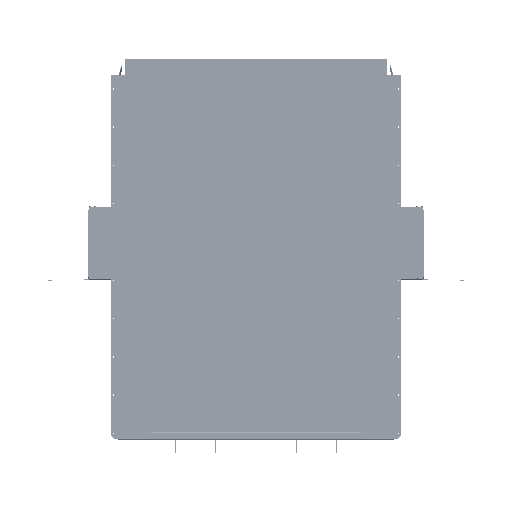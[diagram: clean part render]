
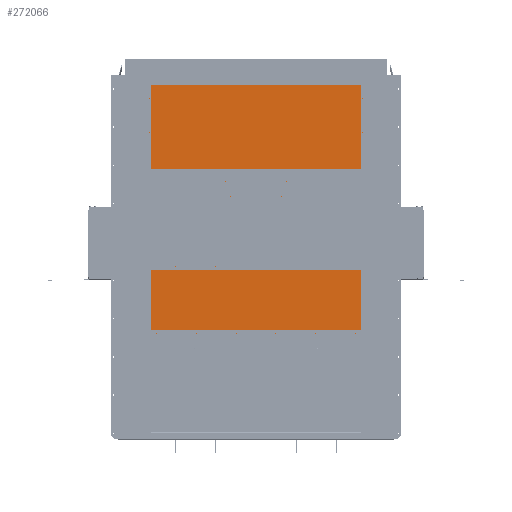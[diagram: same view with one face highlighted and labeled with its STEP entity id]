
A CAD part, front view. The second image highlights one B-rep face of the part: STEP entity #272066.
In plain terms, the highlighted planar face has unit normal (0, -1, 0) as drawn and (0, 0, -1) by its records, which use the part's own axes.
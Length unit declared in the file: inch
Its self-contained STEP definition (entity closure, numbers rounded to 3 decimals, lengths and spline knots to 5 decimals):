
#12979 = VERTEX_POINT ( 'NONE', #335409 ) ;
#19307 = VERTEX_POINT ( 'NONE', #45756 ) ;
#45756 = CARTESIAN_POINT ( 'NONE',  ( 55.7793, 26.23211, 0. ) ) ;
#49669 = VECTOR ( 'NONE', #237613, 39.37008 ) ;
#71188 = CARTESIAN_POINT ( 'NONE',  ( 0., 0., 0. ) ) ;
#99718 = CARTESIAN_POINT ( 'NONE',  ( 55.7793, 93.02785, 0. ) ) ;
#105678 = VECTOR ( 'NONE', #681357, 39.37008 ) ;
#134526 = CARTESIAN_POINT ( 'NONE',  ( 55.7793, 93.02785, 0. ) ) ;
#138619 = FACE_OUTER_BOUND ( 'NONE', #616387, .T. ) ;
#174847 = ORIENTED_EDGE ( 'NONE', *, *, #539818, .F. ) ;
#237613 = DIRECTION ( 'NONE',  ( -1., 0., 0. ) ) ;
#241496 = CARTESIAN_POINT ( 'NONE',  ( -0.76089, 93.02785, 0. ) ) ;
#272066 = ADVANCED_FACE ( 'NONE', ( #138619 ), #444892, .F. ) ;
#298814 = VERTEX_POINT ( 'NONE', #604136 ) ;
#325742 = DIRECTION ( 'NONE',  ( 0., 0., 1. ) ) ;
#335409 = CARTESIAN_POINT ( 'NONE',  ( -0.76089, 26.23211, 0. ) ) ;
#396137 = ORIENTED_EDGE ( 'NONE', *, *, #633321, .F. ) ;
#440109 = VERTEX_POINT ( 'NONE', #134526 ) ;
#444892 = PLANE ( 'NONE',  #452443 ) ;
#452443 = AXIS2_PLACEMENT_3D ( 'NONE', #71188, #325742, #687642 ) ;
#454986 = ORIENTED_EDGE ( 'NONE', *, *, #619213, .F. ) ;
#482417 = VECTOR ( 'NONE', #533259, 39.37008 ) ;
#495803 = CARTESIAN_POINT ( 'NONE',  ( -0.76089, 93.02785, 0. ) ) ;
#506088 = LINE ( 'NONE', #629394, #105678 ) ;
#533259 = DIRECTION ( 'NONE',  ( 0., 1., 0. ) ) ;
#539818 = EDGE_CURVE ( 'NONE', #440109, #298814, #782401, .T. ) ;
#559301 = ORIENTED_EDGE ( 'NONE', *, *, #581520, .F. ) ;
#572999 = VECTOR ( 'NONE', #730639, 39.37008 ) ;
#581520 = EDGE_CURVE ( 'NONE', #19307, #440109, #644870, .T. ) ;
#604136 = CARTESIAN_POINT ( 'NONE',  ( -0.76089, 93.02785, 0. ) ) ;
#616387 = EDGE_LOOP ( 'NONE', ( #454986, #174847, #559301, #396137 ) ) ;
#619213 = EDGE_CURVE ( 'NONE', #298814, #12979, #667018, .T. ) ;
#629394 = CARTESIAN_POINT ( 'NONE',  ( -0.76089, 26.23211, 0. ) ) ;
#633321 = EDGE_CURVE ( 'NONE', #12979, #19307, #506088, .T. ) ;
#644870 = LINE ( 'NONE', #99718, #482417 ) ;
#667018 = LINE ( 'NONE', #495803, #572999 ) ;
#681357 = DIRECTION ( 'NONE',  ( 1., 0., 0. ) ) ;
#687642 = DIRECTION ( 'NONE',  ( 1., 0., 0. ) ) ;
#730639 = DIRECTION ( 'NONE',  ( 0., -1., 0. ) ) ;
#782401 = LINE ( 'NONE', #241496, #49669 ) ;
